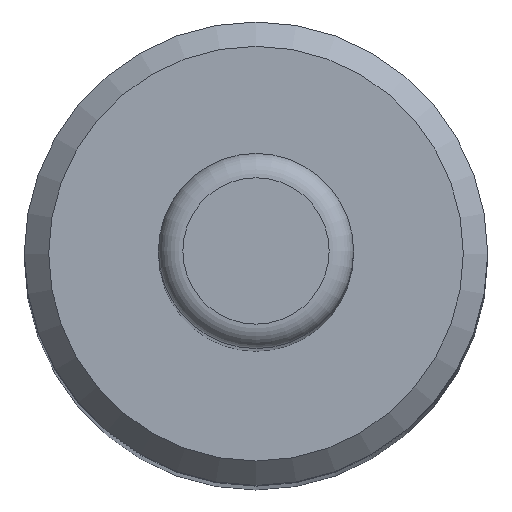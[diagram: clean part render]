
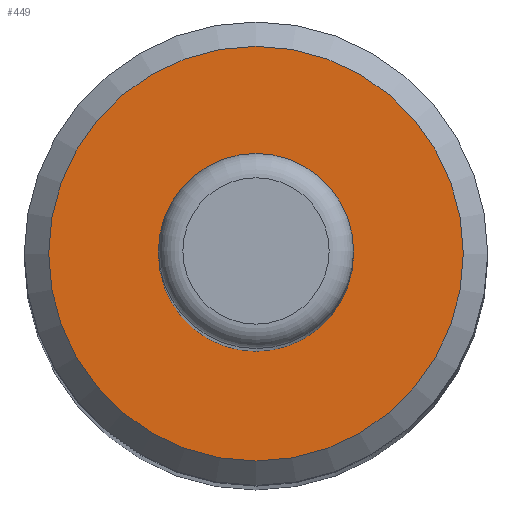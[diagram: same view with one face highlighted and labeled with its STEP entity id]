
A CAD part, top view. The second image highlights one B-rep face of the part: STEP entity #449.
In plain terms, the highlighted planar face has unit normal (0, 0, 1).
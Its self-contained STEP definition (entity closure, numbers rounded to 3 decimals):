
#429 = VERTEX_POINT('',#430);
#430 = CARTESIAN_POINT('',(8.5,0.,108.));
#438 = EDGE_CURVE('',#429,#429,#439,.T.);
#439 = CIRCLE('',#440,8.5);
#440 = AXIS2_PLACEMENT_3D('',#441,#442,#443);
#441 = CARTESIAN_POINT('',(0.,0.,108.));
#442 = DIRECTION('',(0.,0.,1.));
#443 = DIRECTION('',(1.,0.,0.));
#449 = ADVANCED_FACE('',(#450),#453,.T.);
#450 = FACE_BOUND('',#451,.T.);
#451 = EDGE_LOOP('',(#452));
#452 = ORIENTED_EDGE('',*,*,#438,.T.);
#453 = PLANE('',#454);
#454 = AXIS2_PLACEMENT_3D('',#455,#456,#457);
#455 = CARTESIAN_POINT('',(0.,0.,108.));
#456 = DIRECTION('',(0.,0.,1.));
#457 = DIRECTION('',(1.,0.,0.));
